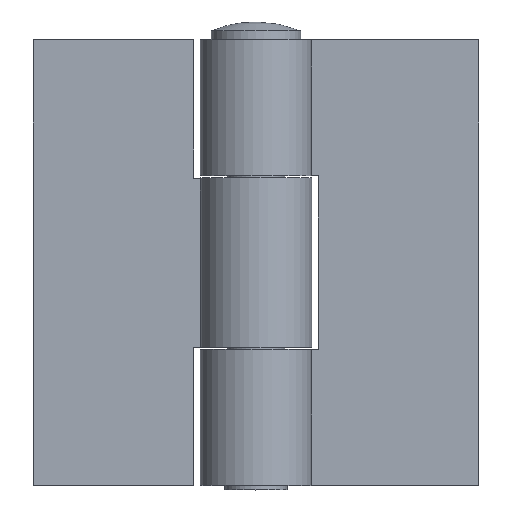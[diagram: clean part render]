
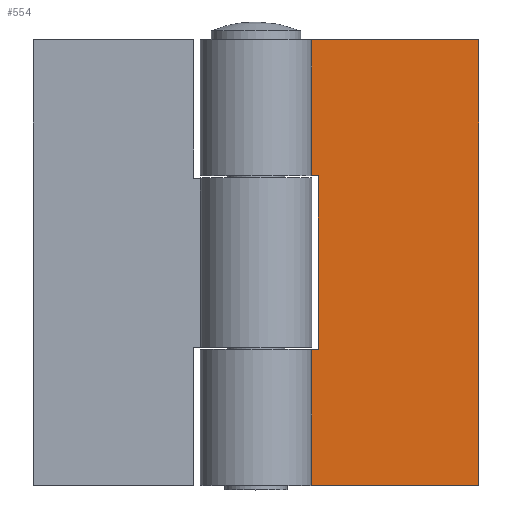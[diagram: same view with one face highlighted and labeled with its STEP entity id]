
A CAD part, top view. The second image highlights one B-rep face of the part: STEP entity #554.
In plain terms, the highlighted planar face has unit normal (0, 0, 1) as drawn and (0, 1, 0) by its records, which use the part's own axes.
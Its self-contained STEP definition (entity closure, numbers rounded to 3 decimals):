
#86=FACE_OUTER_BOUND('',#119,.T.);
#119=EDGE_LOOP('',(#481,#482,#483,#484,#485,#486,#487,#488));
#161=LINE('',#861,#215);
#163=LINE('',#867,#217);
#167=LINE('',#879,#221);
#180=LINE('',#909,#234);
#181=LINE('',#914,#235);
#183=LINE('',#918,#237);
#185=LINE('',#922,#239);
#186=LINE('',#924,#240);
#215=VECTOR('',#690,7.);
#217=VECTOR('',#696,19.5);
#221=VECTOR('',#706,7.);
#234=VECTOR('',#735,15.25);
#235=VECTOR('',#742,15.25);
#237=VECTOR('',#746,25.);
#239=VECTOR('',#750,50.);
#240=VECTOR('',#753,25.);
#264=VERTEX_POINT('',#858);
#265=VERTEX_POINT('',#860);
#267=VERTEX_POINT('',#866);
#272=VERTEX_POINT('',#877);
#281=VERTEX_POINT('',#908);
#282=VERTEX_POINT('',#912);
#283=VERTEX_POINT('',#916);
#284=VERTEX_POINT('',#920);
#324=EDGE_CURVE('',#265,#264,#161,.T.);
#327=EDGE_CURVE('',#264,#267,#163,.T.);
#333=EDGE_CURVE('',#267,#272,#167,.T.);
#348=EDGE_CURVE('',#265,#281,#180,.T.);
#351=EDGE_CURVE('',#282,#272,#181,.T.);
#353=EDGE_CURVE('',#283,#282,#183,.T.);
#355=EDGE_CURVE('',#283,#284,#185,.T.);
#356=EDGE_CURVE('',#281,#284,#186,.T.);
#481=ORIENTED_EDGE('',*,*,#333,.T.);
#482=ORIENTED_EDGE('',*,*,#351,.F.);
#483=ORIENTED_EDGE('',*,*,#353,.F.);
#484=ORIENTED_EDGE('',*,*,#355,.T.);
#485=ORIENTED_EDGE('',*,*,#356,.F.);
#486=ORIENTED_EDGE('',*,*,#348,.F.);
#487=ORIENTED_EDGE('',*,*,#324,.T.);
#488=ORIENTED_EDGE('',*,*,#327,.T.);
#525=PLANE('',#604);
#554=ADVANCED_FACE('',(#86),#525,.T.);
#604=AXIS2_PLACEMENT_3D('',#923,#751,#752);
#690=DIRECTION('',(-1.,0.,0.));
#696=DIRECTION('',(0.,0.,-1.));
#706=DIRECTION('',(1.,0.,0.));
#735=DIRECTION('',(0.,0.,1.));
#742=DIRECTION('',(0.,0.,1.));
#746=DIRECTION('',(1.,0.,0.));
#750=DIRECTION('',(0.,0.,1.));
#751=DIRECTION('center_axis',(0.,1.,0.));
#752=DIRECTION('ref_axis',(-1.,0.,0.));
#753=DIRECTION('',(-1.,0.,0.));
#858=CARTESIAN_POINT('',(-7.,3.,9.75));
#860=CARTESIAN_POINT('',(0.,3.,9.75));
#861=CARTESIAN_POINT('',(-3.5,3.,9.75));
#866=CARTESIAN_POINT('',(-7.,3.,-9.75));
#867=CARTESIAN_POINT('',(-7.,3.,-4.875));
#877=CARTESIAN_POINT('',(0.,3.,-9.75));
#879=CARTESIAN_POINT('',(3.125,3.,-9.75));
#908=CARTESIAN_POINT('',(0.,3.,25.));
#909=CARTESIAN_POINT('',(0.,3.,0.));
#912=CARTESIAN_POINT('',(0.,3.,-25.));
#914=CARTESIAN_POINT('',(0.,3.,0.));
#916=CARTESIAN_POINT('',(-25.,3.,-25.));
#918=CARTESIAN_POINT('',(0.,3.,-25.));
#920=CARTESIAN_POINT('',(-25.,3.,25.));
#922=CARTESIAN_POINT('',(-25.,3.,0.));
#923=CARTESIAN_POINT('Origin',(0.,3.,0.));
#924=CARTESIAN_POINT('',(0.,3.,25.));
